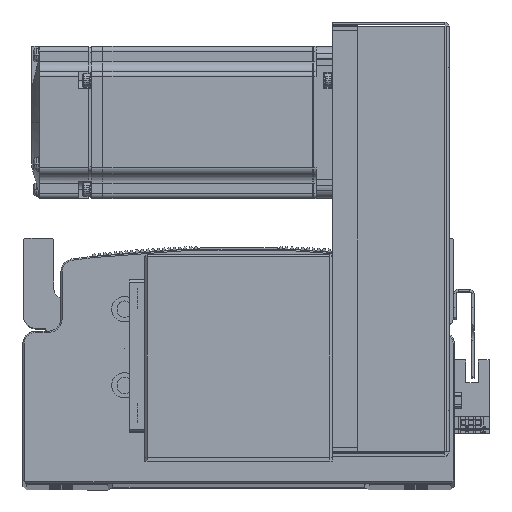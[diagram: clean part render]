
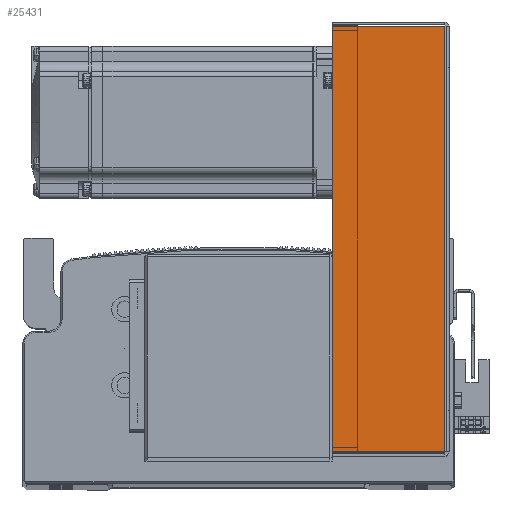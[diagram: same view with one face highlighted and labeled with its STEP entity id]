
A CAD part, top view. The second image highlights one B-rep face of the part: STEP entity #25431.
In plain terms, the highlighted planar face has unit normal (0, 0, 1).
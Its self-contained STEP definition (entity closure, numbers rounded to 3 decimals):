
#1930 = EDGE_CURVE ( 'NONE', #8180, #9232, #26265, .T. ) ;
#1991 = EDGE_CURVE ( 'NONE', #9271, #8196, #26387, .T. ) ;
#2023 = EDGE_CURVE ( 'NONE', #8196, #9232, #26431, .T. ) ;
#2025 = EDGE_CURVE ( 'NONE', #9271, #8180, #26451, .T. ) ;
#8180 = VERTEX_POINT ( 'NONE', #44950 ) ;
#8196 = VERTEX_POINT ( 'NONE', #44951 ) ;
#9232 = VERTEX_POINT ( 'NONE', #45530 ) ;
#9271 = VERTEX_POINT ( 'NONE', #45511 ) ;
#9758 = CARTESIAN_POINT ( 'NONE',  ( -83.793, 0., 40.5 ) ) ;
#9834 = DIRECTION ( 'NONE',  ( 0., 1., 0. ) ) ;
#10175 = CARTESIAN_POINT ( 'NONE',  ( 83.793, 0., 40.5 ) ) ;
#10195 = DIRECTION ( 'NONE',  ( 0., 1., 0. ) ) ;
#10264 = CARTESIAN_POINT ( 'NONE',  ( 0., 0.737, 40.5 ) ) ;
#10276 = DIRECTION ( 'NONE',  ( -1., 0., 0. ) ) ;
#10282 = CARTESIAN_POINT ( 'NONE',  ( -84.5, 45., 40.5 ) ) ;
#10284 = DIRECTION ( 'NONE',  ( -1., 0., 0. ) ) ;
#25431 = ADVANCED_FACE ( 'NONE', ( #70030 ), #81441, .F. ) ;
#26265 = LINE ( 'NONE', #9758, #26272 ) ;
#26272 = VECTOR ( 'NONE', #9834, 1000. ) ;
#26349 = VECTOR ( 'NONE', #10195, 1000. ) ;
#26387 = LINE ( 'NONE', #10175, #26349 ) ;
#26421 = VECTOR ( 'NONE', #10276, 1000. ) ;
#26431 = LINE ( 'NONE', #10282, #26421 ) ;
#26451 = LINE ( 'NONE', #10264, #26470 ) ;
#26470 = VECTOR ( 'NONE', #10284, 1000. ) ;
#33897 = EDGE_LOOP ( 'NONE', ( #83868, #83883, #83859, #83854 ) ) ;
#44950 = CARTESIAN_POINT ( 'NONE',  ( -83.793, 0.737, 40.5 ) ) ;
#44951 = CARTESIAN_POINT ( 'NONE',  ( 83.793, 45., 40.5 ) ) ;
#45511 = CARTESIAN_POINT ( 'NONE',  ( 83.793, 0.737, 40.5 ) ) ;
#45530 = CARTESIAN_POINT ( 'NONE',  ( -83.793, 45., 40.5 ) ) ;
#70030 = FACE_OUTER_BOUND ( 'NONE', #33897, .T. ) ;
#77933 = AXIS2_PLACEMENT_3D ( 'NONE', #81462, #81442, #81449 ) ;
#81441 = PLANE ( 'NONE',  #77933 ) ;
#81442 = DIRECTION ( 'NONE',  ( 0., 0., -1. ) ) ;
#81449 = DIRECTION ( 'NONE',  ( -1., 0., 0. ) ) ;
#81462 = CARTESIAN_POINT ( 'NONE',  ( 0., 0., 40.5 ) ) ;
#83854 = ORIENTED_EDGE ( 'NONE', *, *, #1930, .F. ) ;
#83859 = ORIENTED_EDGE ( 'NONE', *, *, #2023, .T. ) ;
#83868 = ORIENTED_EDGE ( 'NONE', *, *, #2025, .F. ) ;
#83883 = ORIENTED_EDGE ( 'NONE', *, *, #1991, .T. ) ;
